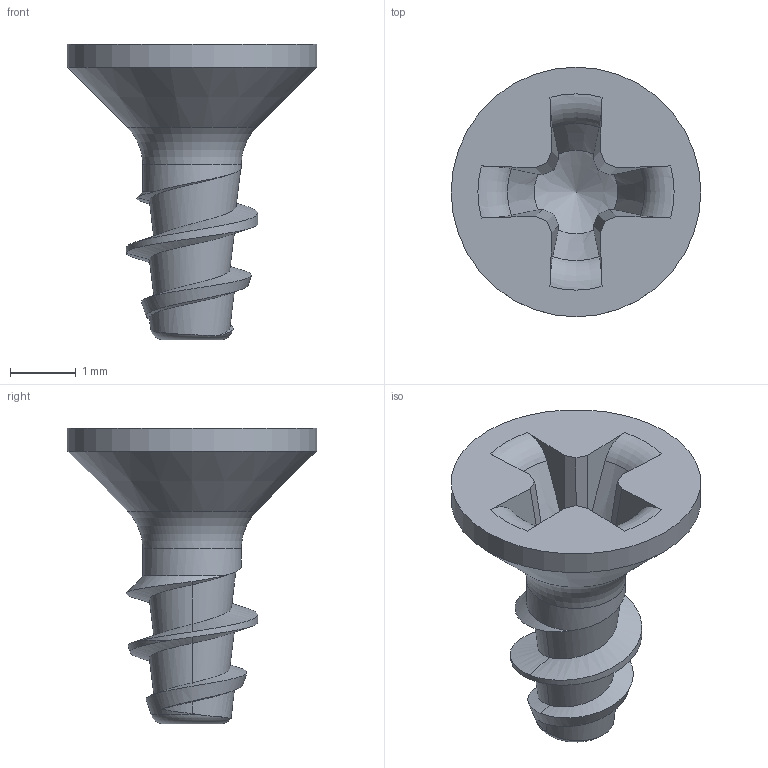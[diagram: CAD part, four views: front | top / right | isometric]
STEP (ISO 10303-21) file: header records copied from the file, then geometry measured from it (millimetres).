
FILE_DESCRIPTION(/* description */ (''),/* implementation_level */ '2;1');
FILE_NAME(/* name */ 'KN1033-STS-20x4,5-H1.step',/* time_stamp */ '2017-10-18T13:47:55+02:00',/* author */ (''),/* organization */ (''),/* preprocessor_version */ 'ST-DEVELOPER v16',/* originating_system */ 'SIEMENS PLM Software NX 10.0',/* authorisation */ '');
FILE_SCHEMA (('AUTOMOTIVE_DESIGN { 1 0 10303 214 3 1 1 1 }'));
Length unit declared in the file: millimetre
Products named in the file (1): KN1033-STS-20x4,5-H1
Bounding box: 3.8 x 3.8 x 4.5 mm (x, y, z)
Volume: 13.1 mm3; surface area: 53.7 mm2
Topology: 1 solids, 1 shells, 47 faces, 128 edges, 83 vertices
Faces by surface type: plane 19, bspline 11, cone 8, torus 6, cylinder 3
Full cylindrical faces by diameter (mm): 1.5 x1, 3.8 x1
Entity records: 2088 total; most frequent: CARTESIAN_POINT 1062, ORIENTED_EDGE 234, DIRECTION 154, EDGE_CURVE 117, VERTEX_POINT 79, B_SPLINE_CURVE_WITH_KNOTS 59, AXIS2_PLACEMENT_3D 59, EDGE_LOOP 53
